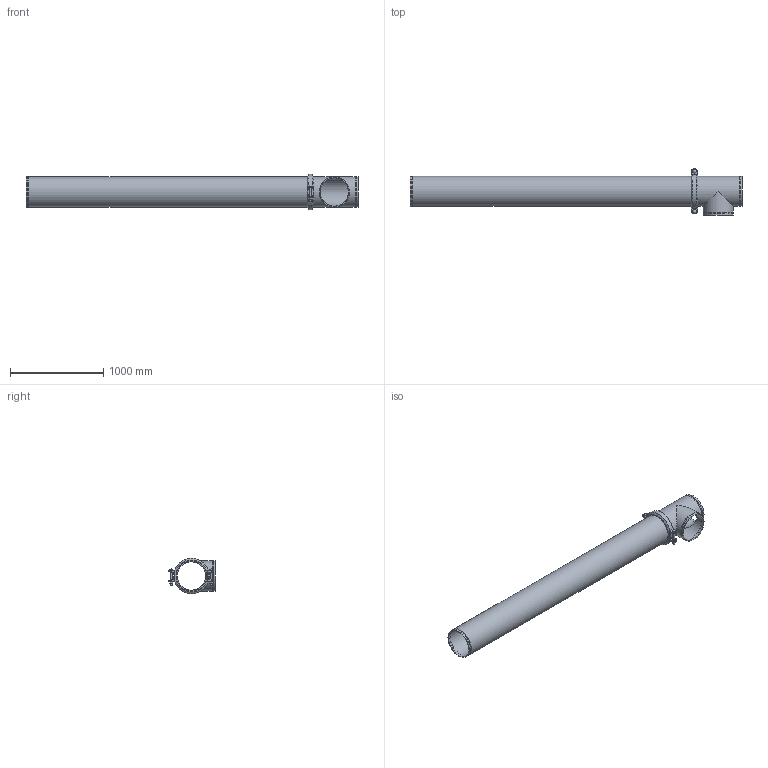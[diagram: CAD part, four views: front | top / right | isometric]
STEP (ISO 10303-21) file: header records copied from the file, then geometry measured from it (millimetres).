
FILE_DESCRIPTION(/* description */ ('VIC LONG RUN FITTING No R15 (OGS)','CAx-IF Rec.Pracs.---Representation and Presentation of Product Manufacturing Information (PMI)---4.0---2014-10-13'),/* implementation_level */ '2;1');
FILE_NAME(/* name */ 'C:\Users\Vjadhav\AppData\Roaming\Autodesk\ApplicationPlugins\Back Up\Victaulic_IPS_Long Run Fittings_No R15 (OGS)\Victaulic_IPS_Long Run Fittings_No R15 (OGS)_12 (300).stp',/* time_stamp */ '2020-10-06T19:04:24+06:00',/* author */ ('Vjadhav'),/* organization */ ('Victaulic'),/* preprocessor_version */ 'ST-DEVELOPER v17.2',/* originating_system */ 'Autodesk Inventor 2019',/* authorisation */ '');
FILE_SCHEMA (('AP242_MANAGED_MODEL_BASED_3D_ENGINEERING_MIM_LF { 1 0 10303 442 1 1 4 }'));
Length unit declared in the file: inch
Products named in the file (4): R15-12.0; 020-12.0; 107N-12.0; Pipe_R13-12.0
Assembly tree (3 placements, depth 2):
  R15-12.0
    020-12.0
    107N-12.0
    Pipe_R13-12.0
Bounding box: 3561.08 x 495.3 x 379.69 mm (x, y, z)
Volume: 36220007.6 mm3; surface area: 7477590 mm2
Topology: 3 solids, 3 shells, 150 faces, 377 edges, 256 vertices
Faces by surface type: plane 65, cylinder 63, bspline 16, cone 4, sphere 2
Full cylindrical faces by diameter (mm): 22.225 x4, 37.694 x2, 304.8 x3, 311.15 x1, 318.287 x5, 323.85 x10
Entity records: 5503 total; most frequent: CARTESIAN_POINT 1414, DIRECTION 843, ORIENTED_EDGE 754, EDGE_CURVE 377, AXIS2_PLACEMENT_3D 333, VERTEX_POINT 256, EDGE_LOOP 185, LINE 177
